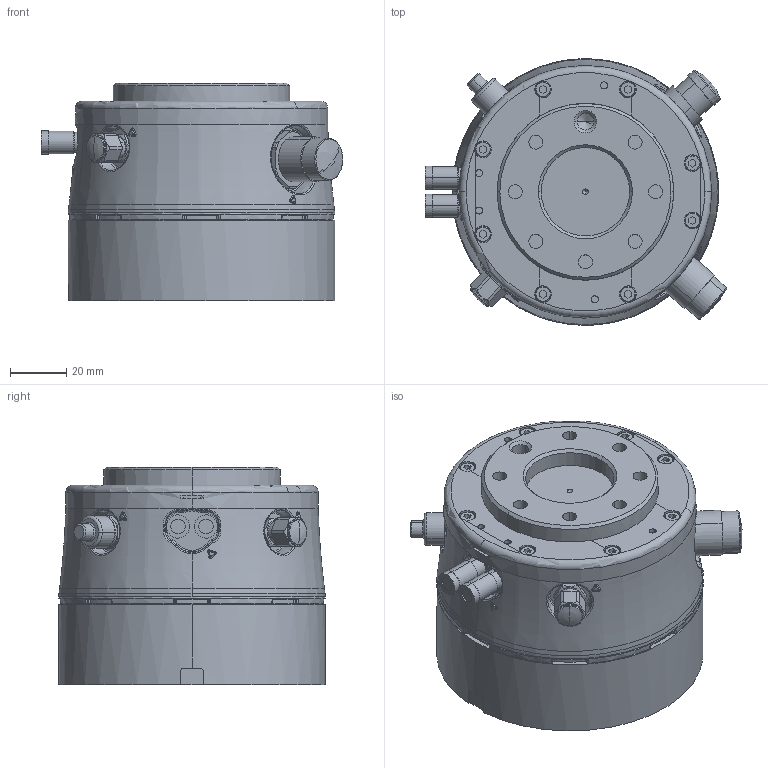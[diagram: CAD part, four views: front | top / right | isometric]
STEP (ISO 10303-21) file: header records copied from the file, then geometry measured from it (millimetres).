
FILE_DESCRIPTION(/* description */ ('AP214 STEP file'),/* implementation_level */ '2;1');
FILE_NAME(/* name */ '1300_model_air-c007_stp',/* time_stamp */ '2023-03-07T19:16:02+09:00',/* author */ (''),/* organization */ (''),/* preprocessor_version */ '7.2.1.0',/* originating_system */ 'Elysium Co. Ltd. STEP Translator',/* authorisation */ '');
FILE_SCHEMA (('AUTOMOTIVE_DESIGN'));
Length unit declared in the file: millimetre
Products named in the file (1): 1300_MODEL_AIR-C007
Bounding box: 107.48 x 95 x 77.7 mm (x, y, z)
Volume: 491377.8 mm3; surface area: 50173.1 mm2
Topology: 1 solids, 1 shells, 673 faces, 1595 edges, 976 vertices
Faces by surface type: plane 200, cylinder 191, cone 101, bspline 97, torus 40, extrusion 18, sphere 18, revolution 8
Entity records: 23333 total; most frequent: CARTESIAN_POINT 9931, ORIENTED_EDGE 3170, EDGE_CURVE 1585, DIRECTION 1536, AXIS2_PLACEMENT_3D 1151, VERTEX_POINT 976, EDGE_LOOP 751, ADVANCED_FACE 673
